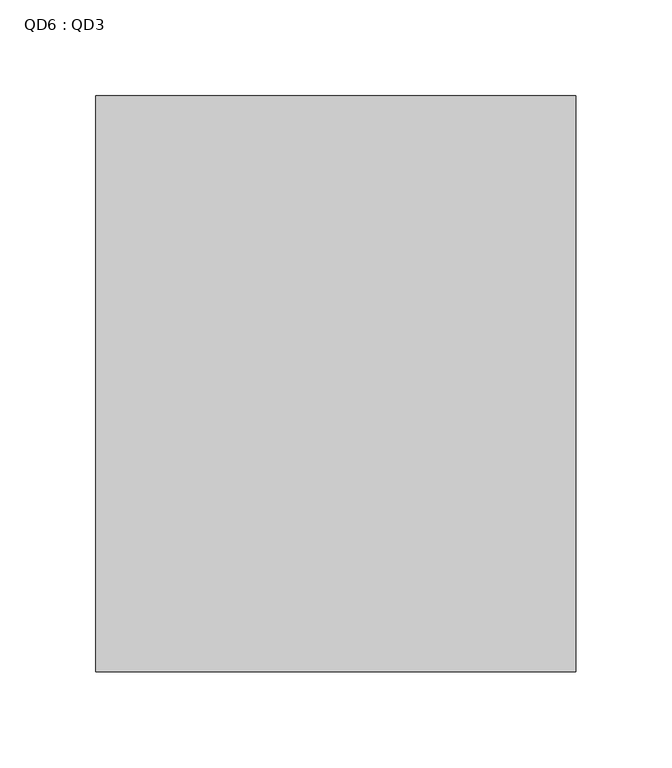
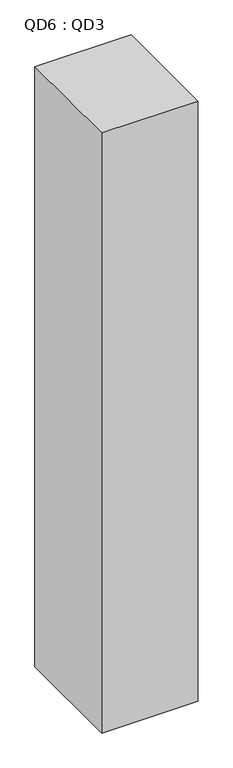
"""IFC4 building model written with IfcOpenShell, lengths in millimetres: proxy geometry, QD6 : QD3."""

from ifc_helpers import new_model, si_unit, frame, origin, place, context, project, spatial, polyline, outline, extrude, source, transform, mapped, element, save


def qd6_qd3_51647582(model_context):
    return source(origin(), model_context, "Body", "SweptSolid", [
        extrude(outline(polyline([(5264.4746511, 18162.0121745), (5514.4746511, 18162.0121745), (5514.4746511, 17862.0121745), (5264.4746511, 17862.0121745), (5264.4746511, 18162.0121745)])), frame((0.0, 0.0, 1200.0), z_axis=(0.0, 0.0, 1.0), x_axis=(1.0, 0.0, 0.0)), (0.0, 0.0, 1.0), 1650.0),
    ])


if __name__ == "__main__":
    model = new_model("IFC4")
    model_context = context("Model", 3, world=origin())
    ifc_project = project(units=[si_unit("LENGTHUNIT", "METRE", prefix="MILLI")], contexts=[model_context])
    site = spatial("IfcSite", under=ifc_project)
    building = spatial("IfcBuilding", under=site)
    placement = place(None, origin())
    qd6_qd3_shape = qd6_qd3_51647582(model_context)
    element("IfcBuildingElementProxy", 1, Name="QD6 : QD3", ObjectType="QD6 : QD3", at=placement, inside=building, context=model_context, shape_type="MappedRepresentation", body=[
        mapped(qd6_qd3_shape, transform((0.0, 0.0, 0.0), x_axis=(1.0, 0.0, 0.0), y_axis=(0.0, 1.0, 0.0), z_axis=(0.0, 0.0, 1.0))),
    ])
    save(model, "model.ifc")
